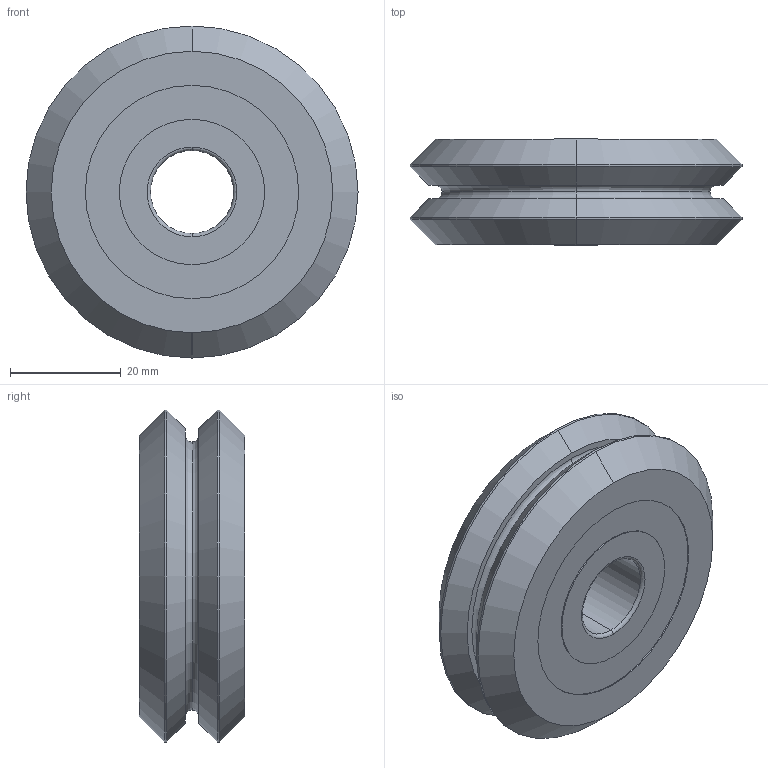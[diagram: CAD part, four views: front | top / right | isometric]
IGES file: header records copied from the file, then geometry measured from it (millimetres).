
Start section: 3D InterOp IGES (v. 2019 1.0.2), Spatial Corp. Copyright (c) 1999-2017.
Global section: file name: W4SSX.igs; native system: Spatial Corp.; preprocessor: 3D InterOp GENERIC/IGES 3.0; author: Noname; organization: Noname; date: 20200930.105807; units: millimetre
Bounding box: 59.94 x 19.05 x 59.94 mm (x, y, z)
Surface area: 9623.6 mm2 (no closed solid volume)
Topology: 0 solids, 0 shells, 38 faces, 152 edges, 152 vertices
Faces by surface type: revolution 30, extrusion 8
